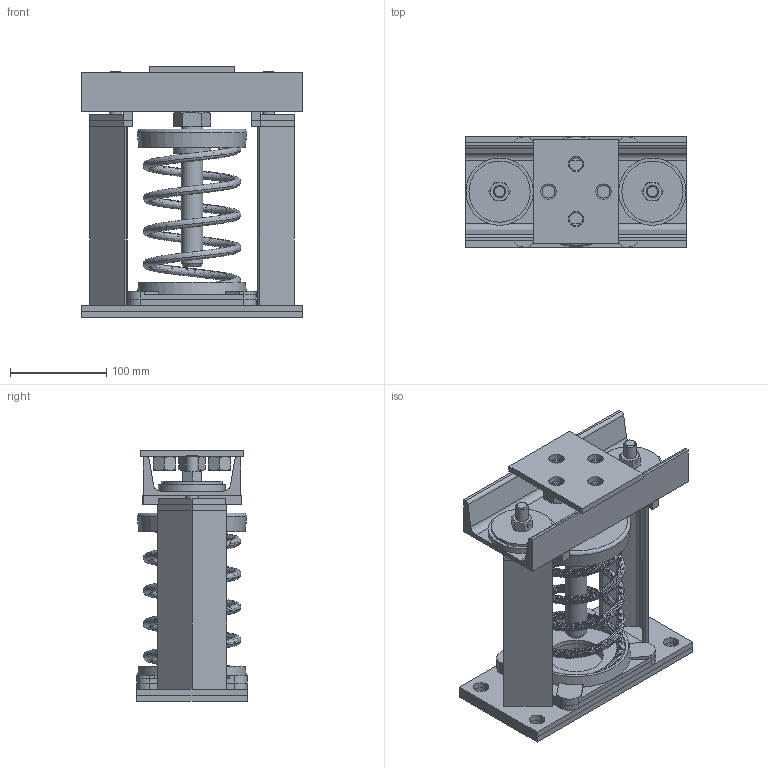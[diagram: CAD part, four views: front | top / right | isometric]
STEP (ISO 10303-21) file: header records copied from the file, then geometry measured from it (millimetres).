
FILE_DESCRIPTION(/* description */ (''),/* implementation_level */ '2;1');
FILE_NAME(/* name */ 'C:\001_Work\Designs\SLR-100 SERIES\SLR 100 SERIES (STOCK MOUNTS)\SLR 101-107, 126-128\SLR-128.stp',/* time_stamp */ '2016-01-19T09:45:31-05:00',/* author */ ('rramoutar'),/* organization */ ('Mason Industries Inc.'),/* preprocessor_version */ 'ST-DEVELOPER v15.6',/* originating_system */ 'Autodesk Inventor 2015',/* authorisation */ '');
FILE_SCHEMA (('CONFIG_CONTROL_DESIGN'));
Length unit declared in the file: inch
Products named in the file (1): SLR-128 PER A-21738-2
Bounding box: 228.6 x 114.3 x 260.35 mm (x, y, z)
Volume: 1524359.5 mm3; surface area: 600161 mm2
Topology: 31 solids, 31 shells, 456 faces, 1055 edges, 677 vertices
Faces by surface type: plane 254, cone 104, cylinder 75, bspline 22, torus 1
Full cylindrical faces by diameter (mm): 6.35 x2, 9.525 x4, 10.592 x2, 12.7 x3, 13.386 x4, 14.287 x4, 15.875 x16, 19.447 x1, 22.225 x1, 31.75 x2, 38.1 x4, 57.15 x2, 63.5 x2, 69.85 x2, 103.981 x2
Entity records: 20143 total; most frequent: CARTESIAN_POINT 10107, ORIENTED_EDGE 1900, DIRECTION 1854, EDGE_CURVE 950, AXIS2_PLACEMENT_3D 699, VERTEX_POINT 644, EDGE_LOOP 614, STYLED_ITEM 487
